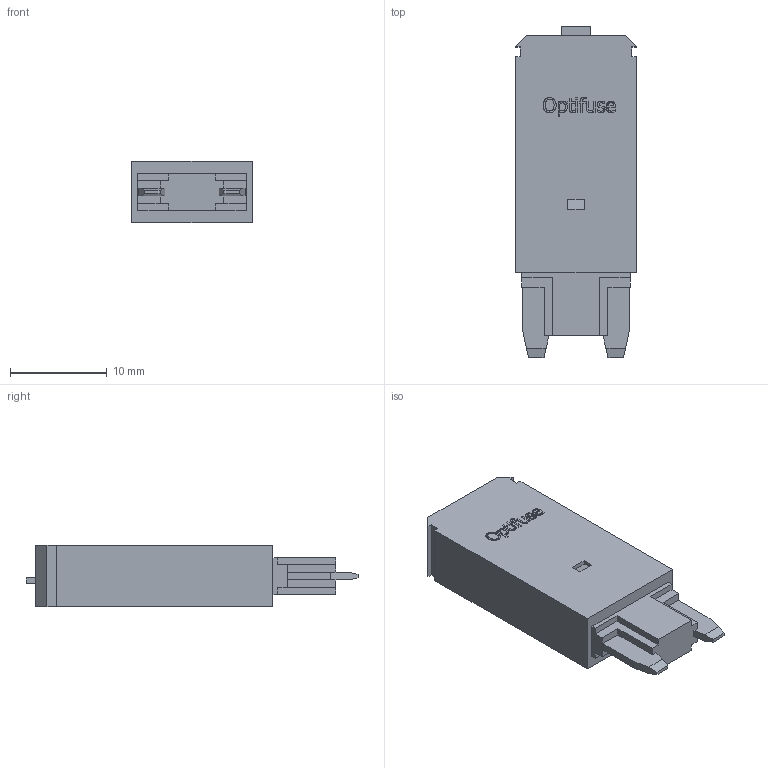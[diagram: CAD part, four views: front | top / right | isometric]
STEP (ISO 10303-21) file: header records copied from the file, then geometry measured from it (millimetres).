
FILE_DESCRIPTION(/* description */ (''),/* implementation_level */ '2;1');
FILE_NAME(/* name */ 'C:\Users\Hani\Desktop\work\MRCBP4-PS\MRCBP4-PS.stp',/* time_stamp */ '2021-10-09T17:34:41-07:00',/* author */ ('Hani'),/* organization */ (''),/* preprocessor_version */ 'ST-DEVELOPER v17',/* originating_system */ 'Autodesk Inventor 2019',/* authorisation */ '');
FILE_SCHEMA (('AUTOMOTIVE_DESIGN { 1 0 10303 214 3 1 1 }'));
Length unit declared in the file: millimetre
Products named in the file (1): MRCBP4-PS
Bounding box: 12.45 x 34.3 x 6.38 mm (x, y, z)
Volume: 2116.1 mm3; surface area: 1305.5 mm2
Topology: 1 solids, 1 shells, 206 faces, 564 edges, 376 vertices
Faces by surface type: plane 139, bspline 67
Entity records: 7085 total; most frequent: CARTESIAN_POINT 2235, ORIENTED_EDGE 1128, DIRECTION 710, EDGE_CURVE 564, LINE 430, VECTOR 430, VERTEX_POINT 376, EDGE_LOOP 222
